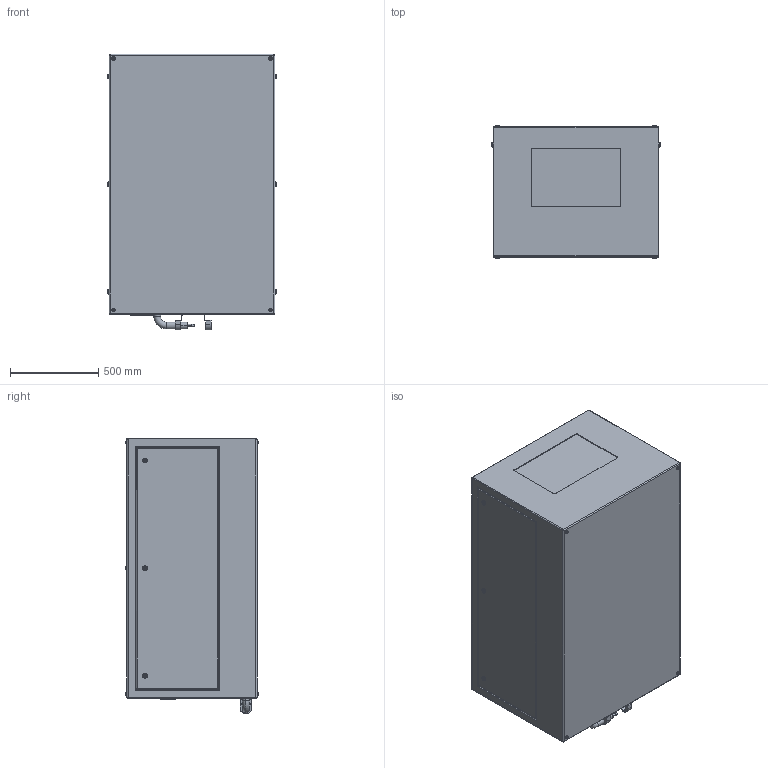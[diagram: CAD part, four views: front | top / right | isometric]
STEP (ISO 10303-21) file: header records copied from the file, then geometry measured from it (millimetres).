
FILE_DESCRIPTION (( 'STEP AP214' ), '1' );
FILE_NAME ('Oasis 59.322.L R02.STEP', '2022-08-27T16:11:55', ( '' ), ( '' ), 'SwSTEP 2.0', 'SolidWorks 2020', '' );
FILE_SCHEMA (( 'AUTOMOTIVE_DESIGN' ));
Length unit declared in the file: inch
Products named in the file (1): Oasis 59.322.L R02
Bounding box: 952.5 x 753.87 x 1562.1 mm (x, y, z)
Volume: 1018670072.5 mm3; surface area: 6769818.7 mm2
Topology: 2 solids, 8 shells, 495 faces, 1129 edges, 714 vertices
Faces by surface type: plane 271, cylinder 170, torus 46, bspline 8
Entity records: 18928 total; most frequent: CARTESIAN_POINT 2851, DIRECTION 2459, ORIENTED_EDGE 2242, EDGE_CURVE 1121, AXIS2_PLACEMENT_3D 882, VERTEX_POINT 714, VECTOR 695, LINE 695
